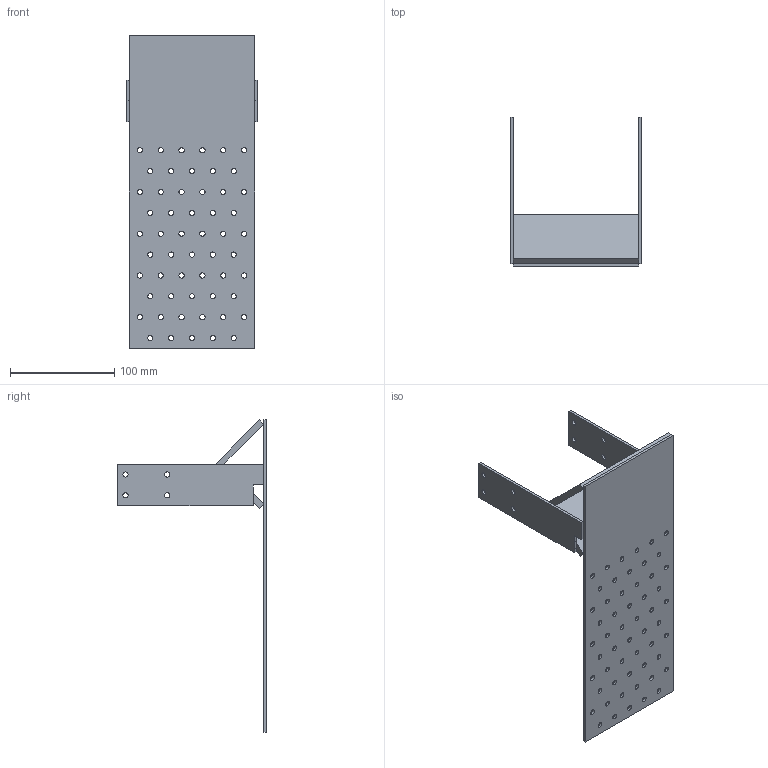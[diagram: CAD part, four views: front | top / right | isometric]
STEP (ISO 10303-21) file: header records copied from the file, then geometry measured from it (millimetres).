
FILE_DESCRIPTION (( 'STEP AP203' ), '1' );
FILE_NAME ('22103.STEP', '2021-05-21T06:06:03', ( '' ), ( '' ), 'SwSTEP 2.0', 'SolidWorks 2013', '' );
FILE_SCHEMA (( 'CONFIG_CONTROL_DESIGN' ));
Length unit declared in the file: millimetre
Products named in the file (4): PLFH120; 22103; PLWESF120; STSF40X140
Assembly tree (4 placements, depth 2):
  22103
    PLFH120
    PLWESF120
    STSF40X140  x2
Bounding box: 125 x 142.5 x 300 mm (x, y, z)
Volume: 195987.5 mm3; surface area: 127668 mm2
Topology: 4 solids, 4 shells, 156 faces, 444 edges, 296 vertices
Faces by surface type: cylinder 126, plane 30
Entity records: 5400 total; most frequent: DIRECTION 930, CARTESIAN_POINT 816, ORIENTED_EDGE 804, EDGE_CURVE 402, AXIS2_PLACEMENT_3D 382, VERTEX_POINT 268, EDGE_LOOP 258, CIRCLE 236
